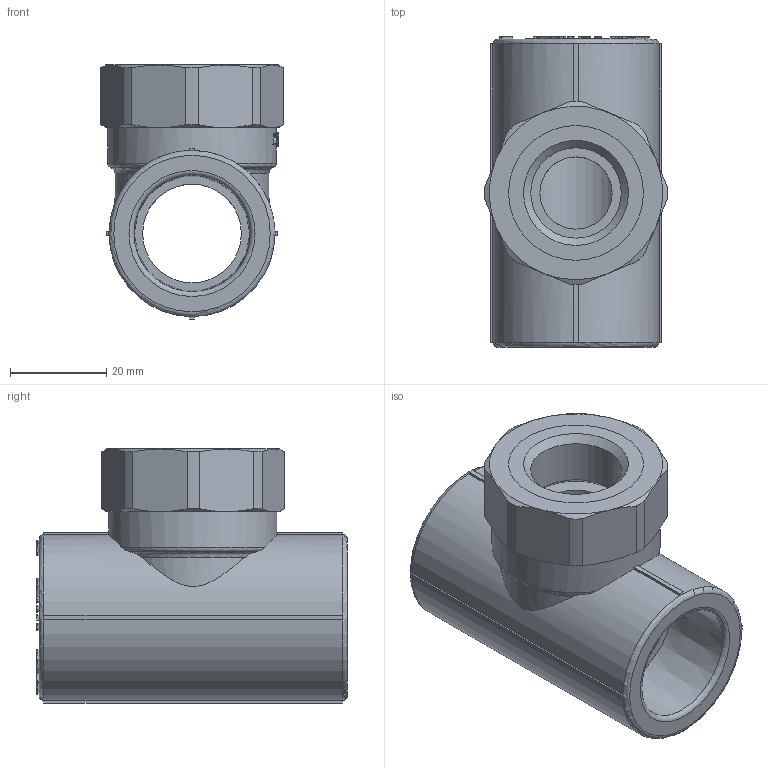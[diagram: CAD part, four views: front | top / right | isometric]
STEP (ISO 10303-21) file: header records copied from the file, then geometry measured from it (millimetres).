
FILE_DESCRIPTION(('STEP AP203'), '1');
FILE_NAME('ÂÐ.752241.036 - VTp.732.0.02504', '', ('UNSPECIFIED'), ('UNSPECIFIED'), 'C3D Converter', 'C3D Toolkit', '');
FILE_SCHEMA(('CONFIG_CONTROL_DESIGN'));
Length unit declared in the file: millimetre
Products named in the file (4): ВР.752241.036; ВР.302639.014.000; ВР.713661.001
Assembly tree (3 placements, depth 3):
  ВР.752241.036
    ВР.302639.014.000
      ВР.713661.001
      (unnamed)
Bounding box: 37.99 x 64.5 x 52.75 mm (x, y, z)
Volume: 49768.7 mm3; surface area: 23439.2 mm2
Topology: 3 solids, 3 shells, 889 faces, 2410 edges, 1596 vertices
Faces by surface type: extrusion 432, plane 353, cylinder 70, cone 21, torus 13
Full cylindrical faces by diameter (mm): 15 x1, 18.8 x1, 20.5 x1, 21.5 x2, 24 x8, 28 x10, 35 x1
Entity records: 31466 total; most frequent: CARTESIAN_POINT 10870, ORIENTED_EDGE 4722, DIRECTION 2918, EDGE_CURVE 2361, VECTOR 1622, VERTEX_POINT 1586, B_SPLINE_CURVE_WITH_KNOTS 1344, LINE 1190
